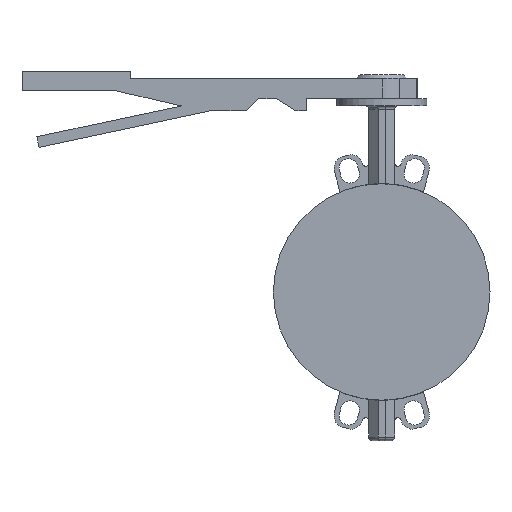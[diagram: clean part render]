
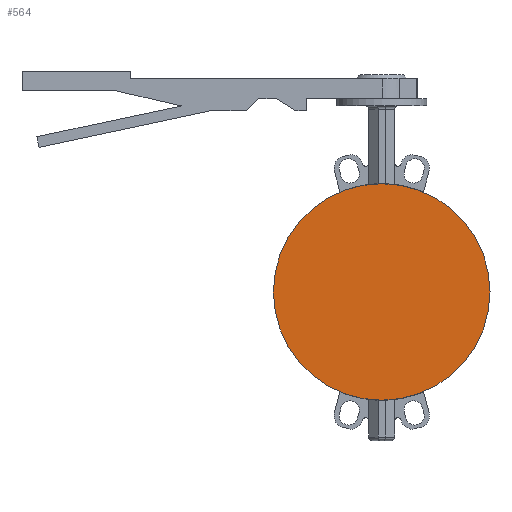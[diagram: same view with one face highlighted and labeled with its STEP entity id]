
A CAD part, left-side view. The second image highlights one B-rep face of the part: STEP entity #564.
In plain terms, the highlighted planar face has unit normal (-1, 0, 0).
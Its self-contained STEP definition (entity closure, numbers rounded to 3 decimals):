
#484=CIRCLE('',#4395,150.);
#564=ADVANCED_FACE('',(#905),#790,.F.);
#790=PLANE('',#4417);
#905=FACE_OUTER_BOUND('',#1120,.T.);
#1120=EDGE_LOOP('',(#1464));
#1464=ORIENTED_EDGE('',*,*,#2993,.F.);
#2594=VERTEX_POINT('',#5672);
#2993=EDGE_CURVE('',#2594,#2594,#484,.T.);
#4395=AXIS2_PLACEMENT_3D('',#5671,#4691,#4692);
#4417=AXIS2_PLACEMENT_3D('',#5788,#4785,#4786);
#4691=DIRECTION('',(1.,0.,0.));
#4692=DIRECTION('',(0.,1.,0.));
#4785=DIRECTION('',(1.,0.,0.));
#4786=DIRECTION('',(0.,0.,-1.));
#5671=CARTESIAN_POINT('',(-34.,0.,0.));
#5672=CARTESIAN_POINT('',(-34.,150.,0.));
#5788=CARTESIAN_POINT('',(-34.,0.,0.));
